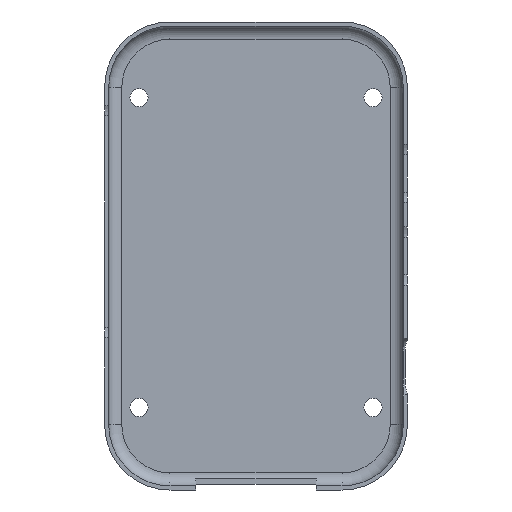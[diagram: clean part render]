
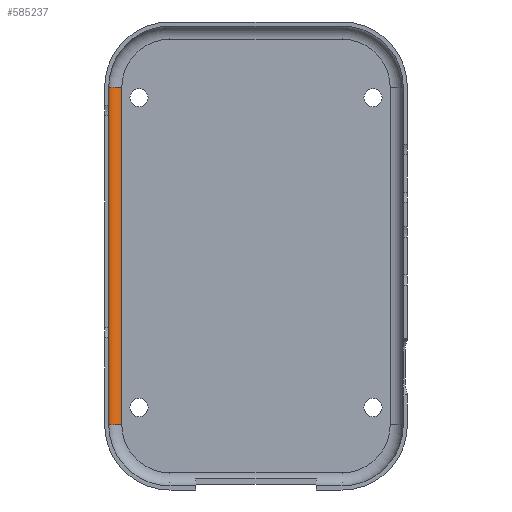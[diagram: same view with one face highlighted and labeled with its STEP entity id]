
A CAD part, top view. The second image highlights one B-rep face of the part: STEP entity #585237.
In plain terms, the highlighted cylindrical face has radius 3.8 mm (diameter 7.6 mm), a partial arc.
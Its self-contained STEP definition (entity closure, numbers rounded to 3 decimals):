
#421 = PLANE('',#422);
#422 = AXIS2_PLACEMENT_3D('',#423,#424,#425);
#423 = CARTESIAN_POINT('',(-42.8,-66.8,-12.4));
#424 = DIRECTION('',(1.,0.,0.));
#425 = DIRECTION('',(0.,0.,1.));
#204228 = VERTEX_POINT('',#204229);
#204229 = CARTESIAN_POINT('',(-42.8,49.,-8.6));
#204265 = TOROIDAL_SURFACE('',#204266,14.,3.8);
#204266 = AXIS2_PLACEMENT_3D('',#204267,#204268,#204269);
#204267 = CARTESIAN_POINT('',(-25.,49.,-8.6));
#204268 = DIRECTION('',(-0.,-0.,-1.));
#204269 = DIRECTION('',(-1.,0.,0.));
#204283 = VERTEX_POINT('',#204284);
#204284 = CARTESIAN_POINT('',(-42.8,-49.,-8.6));
#204305 = EDGE_CURVE('',#204283,#204228,#204306,.T.);
#204306 = SURFACE_CURVE('',#204307,(#204311,#204318),.PCURVE_S1.);
#204307 = LINE('',#204308,#204309);
#204308 = CARTESIAN_POINT('',(-42.8,-49.,-8.6));
#204309 = VECTOR('',#204310,1.);
#204310 = DIRECTION('',(0.,1.,0.));
#204311 = PCURVE('',#421,#204312);
#204312 = DEFINITIONAL_REPRESENTATION('',(#204313),#204317);
#204313 = LINE('',#204314,#204315);
#204314 = CARTESIAN_POINT('',(3.8,-17.8));
#204315 = VECTOR('',#204316,1.);
#204316 = DIRECTION('',(0.,-1.));
#204317 = ( GEOMETRIC_REPRESENTATION_CONTEXT(2) 
PARAMETRIC_REPRESENTATION_CONTEXT() REPRESENTATION_CONTEXT('2D SPACE',''
  ) );
#204318 = PCURVE('',#204319,#204324);
#204319 = CYLINDRICAL_SURFACE('',#204320,3.8);
#204320 = AXIS2_PLACEMENT_3D('',#204321,#204322,#204323);
#204321 = CARTESIAN_POINT('',(-39.,-49.,-8.6));
#204322 = DIRECTION('',(0.,1.,0.));
#204323 = DIRECTION('',(-1.,0.,0.));
#204324 = DEFINITIONAL_REPRESENTATION('',(#204325),#204329);
#204325 = LINE('',#204326,#204327);
#204326 = CARTESIAN_POINT('',(-0.,0.));
#204327 = VECTOR('',#204328,1.);
#204328 = DIRECTION('',(-0.,1.));
#204329 = ( GEOMETRIC_REPRESENTATION_CONTEXT(2) 
PARAMETRIC_REPRESENTATION_CONTEXT() REPRESENTATION_CONTEXT('2D SPACE',''
  ) );
#204354 = TOROIDAL_SURFACE('',#204355,14.,3.8);
#204355 = AXIS2_PLACEMENT_3D('',#204356,#204357,#204358);
#204356 = CARTESIAN_POINT('',(-25.,-49.,-8.6));
#204357 = DIRECTION('',(-0.,-0.,-1.));
#204358 = DIRECTION('',(0.,-1.,0.));
#204703 = PLANE('',#204704);
#204704 = AXIS2_PLACEMENT_3D('',#204705,#204706,#204707);
#204705 = CARTESIAN_POINT('',(-42.8,-66.8,-12.4));
#204706 = DIRECTION('',(0.,0.,1.));
#204707 = DIRECTION('',(1.,0.,0.));
#585188 = EDGE_CURVE('',#204228,#585189,#585191,.T.);
#585189 = VERTEX_POINT('',#585190);
#585190 = CARTESIAN_POINT('',(-39.,49.,-12.4));
#585191 = SURFACE_CURVE('',#585192,(#585197,#585203),.PCURVE_S1.);
#585192 = CIRCLE('',#585193,3.8);
#585193 = AXIS2_PLACEMENT_3D('',#585194,#585195,#585196);
#585194 = CARTESIAN_POINT('',(-39.,49.,-8.6));
#585195 = DIRECTION('',(-0.,-1.,-0.));
#585196 = DIRECTION('',(-1.,0.,0.));
#585197 = PCURVE('',#204265,#585198);
#585198 = DEFINITIONAL_REPRESENTATION('',(#585199),#585202);
#585199 = B_SPLINE_CURVE_WITH_KNOTS('',1,(#585200,#585201),
  .UNSPECIFIED.,.F.,.F.,(2,2),(0.,1.571),
  .PIECEWISE_BEZIER_KNOTS.);
#585200 = CARTESIAN_POINT('',(0.,0.));
#585201 = CARTESIAN_POINT('',(0.,1.571));
#585202 = ( GEOMETRIC_REPRESENTATION_CONTEXT(2) 
PARAMETRIC_REPRESENTATION_CONTEXT() REPRESENTATION_CONTEXT('2D SPACE',''
  ) );
#585203 = PCURVE('',#204319,#585204);
#585204 = DEFINITIONAL_REPRESENTATION('',(#585205),#585208);
#585205 = B_SPLINE_CURVE_WITH_KNOTS('',1,(#585206,#585207),
  .UNSPECIFIED.,.F.,.F.,(2,2),(0.,1.571),
  .PIECEWISE_BEZIER_KNOTS.);
#585206 = CARTESIAN_POINT('',(0.,98.));
#585207 = CARTESIAN_POINT('',(-1.571,98.));
#585208 = ( GEOMETRIC_REPRESENTATION_CONTEXT(2) 
PARAMETRIC_REPRESENTATION_CONTEXT() REPRESENTATION_CONTEXT('2D SPACE',''
  ) );
#585237 = ADVANCED_FACE('',(#585238),#204319,.F.);
#585238 = FACE_BOUND('',#585239,.T.);
#585239 = EDGE_LOOP('',(#585240,#585262,#585283,#585284));
#585240 = ORIENTED_EDGE('',*,*,#585241,.T.);
#585241 = EDGE_CURVE('',#204283,#585242,#585244,.T.);
#585242 = VERTEX_POINT('',#585243);
#585243 = CARTESIAN_POINT('',(-39.,-49.,-12.4));
#585244 = SURFACE_CURVE('',#585245,(#585250,#585256),.PCURVE_S1.);
#585245 = CIRCLE('',#585246,3.8);
#585246 = AXIS2_PLACEMENT_3D('',#585247,#585248,#585249);
#585247 = CARTESIAN_POINT('',(-39.,-49.,-8.6));
#585248 = DIRECTION('',(-0.,-1.,-0.));
#585249 = DIRECTION('',(-1.,0.,0.));
#585250 = PCURVE('',#204319,#585251);
#585251 = DEFINITIONAL_REPRESENTATION('',(#585252),#585255);
#585252 = B_SPLINE_CURVE_WITH_KNOTS('',1,(#585253,#585254),
  .UNSPECIFIED.,.F.,.F.,(2,2),(0.,1.571),
  .PIECEWISE_BEZIER_KNOTS.);
#585253 = CARTESIAN_POINT('',(0.,0.));
#585254 = CARTESIAN_POINT('',(-1.571,0.));
#585255 = ( GEOMETRIC_REPRESENTATION_CONTEXT(2) 
PARAMETRIC_REPRESENTATION_CONTEXT() REPRESENTATION_CONTEXT('2D SPACE',''
  ) );
#585256 = PCURVE('',#204354,#585257);
#585257 = DEFINITIONAL_REPRESENTATION('',(#585258),#585261);
#585258 = B_SPLINE_CURVE_WITH_KNOTS('',1,(#585259,#585260),
  .UNSPECIFIED.,.F.,.F.,(2,2),(0.,1.571),
  .PIECEWISE_BEZIER_KNOTS.);
#585259 = CARTESIAN_POINT('',(1.571,0.));
#585260 = CARTESIAN_POINT('',(1.571,1.571));
#585261 = ( GEOMETRIC_REPRESENTATION_CONTEXT(2) 
PARAMETRIC_REPRESENTATION_CONTEXT() REPRESENTATION_CONTEXT('2D SPACE',''
  ) );
#585262 = ORIENTED_EDGE('',*,*,#585263,.T.);
#585263 = EDGE_CURVE('',#585242,#585189,#585264,.T.);
#585264 = SURFACE_CURVE('',#585265,(#585269,#585276),.PCURVE_S1.);
#585265 = LINE('',#585266,#585267);
#585266 = CARTESIAN_POINT('',(-39.,-49.,-12.4));
#585267 = VECTOR('',#585268,1.);
#585268 = DIRECTION('',(0.,1.,0.));
#585269 = PCURVE('',#204319,#585270);
#585270 = DEFINITIONAL_REPRESENTATION('',(#585271),#585275);
#585271 = LINE('',#585272,#585273);
#585272 = CARTESIAN_POINT('',(-1.571,0.));
#585273 = VECTOR('',#585274,1.);
#585274 = DIRECTION('',(-0.,1.));
#585275 = ( GEOMETRIC_REPRESENTATION_CONTEXT(2) 
PARAMETRIC_REPRESENTATION_CONTEXT() REPRESENTATION_CONTEXT('2D SPACE',''
  ) );
#585276 = PCURVE('',#204703,#585277);
#585277 = DEFINITIONAL_REPRESENTATION('',(#585278),#585282);
#585278 = LINE('',#585279,#585280);
#585279 = CARTESIAN_POINT('',(3.8,17.8));
#585280 = VECTOR('',#585281,1.);
#585281 = DIRECTION('',(0.,1.));
#585282 = ( GEOMETRIC_REPRESENTATION_CONTEXT(2) 
PARAMETRIC_REPRESENTATION_CONTEXT() REPRESENTATION_CONTEXT('2D SPACE',''
  ) );
#585283 = ORIENTED_EDGE('',*,*,#585188,.F.);
#585284 = ORIENTED_EDGE('',*,*,#204305,.F.);
